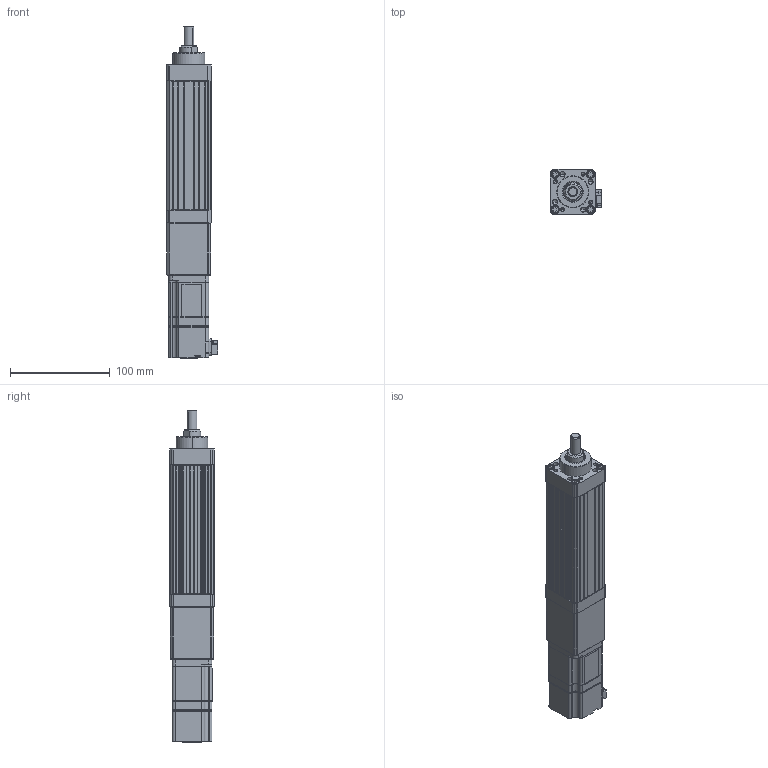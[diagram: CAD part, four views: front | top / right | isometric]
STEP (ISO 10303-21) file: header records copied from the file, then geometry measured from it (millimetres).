
FILE_DESCRIPTION (( 'STEP AP203' ), '1' );
FILE_NAME ('ANS045-S050-05(10)-W10-M.STEP', '2019-02-14T02:47:03', ( 'user' ), ( '' ), 'SwSTEP 2.0', 'SolidWorks 2013', '' );
FILE_SCHEMA (( 'CONFIG_CONTROL_DESIGN' ));
Length unit declared in the file: millimetre
Products named in the file (4): ANS045-S050-05(10)-W10-M; ANS045 S050 VER2; ANS045 ROD ST050 M; SGMJV_01A_A21
Assembly tree (3 placements, depth 2):
  ANS045-S050-05(10)-W10-M
    ANS045 S050 VER2
    ANS045 ROD ST050 M
    SGMJV_01A_A21
Bounding box: 51.3 x 45 x 332.1 mm (x, y, z)
Volume: 416595.6 mm3; surface area: 109126.4 mm2
Topology: 3 solids, 7 shells, 895 faces, 2251 edges, 1404 vertices
Faces by surface type: plane 480, cylinder 305, cone 108, bspline 2
Entity records: 26713 total; most frequent: CARTESIAN_POINT 5040, ORIENTED_EDGE 4438, DIRECTION 4413, EDGE_CURVE 2219, LINE 1507, VECTOR 1507, AXIS2_PLACEMENT_3D 1453, VERTEX_POINT 1404
